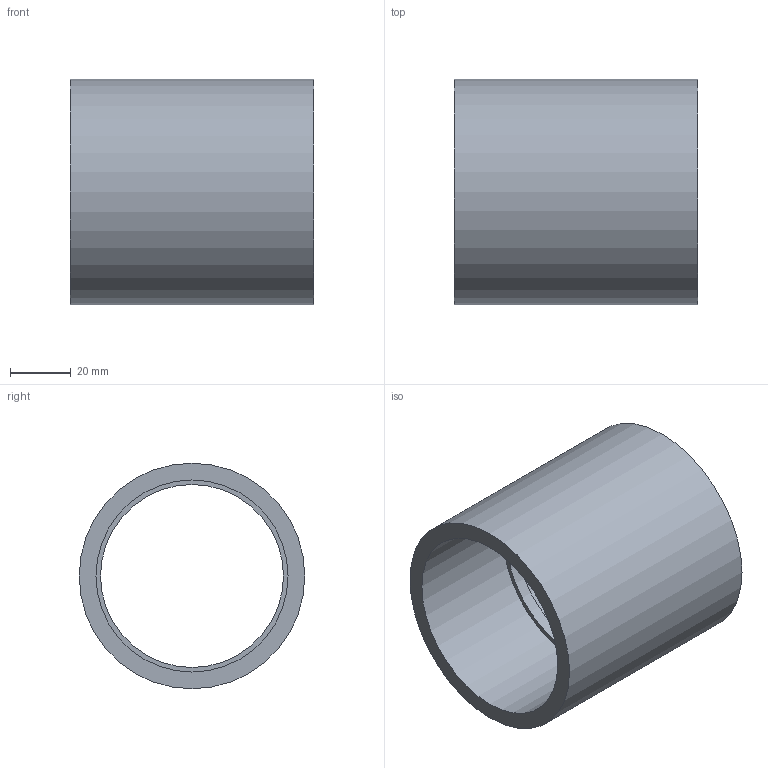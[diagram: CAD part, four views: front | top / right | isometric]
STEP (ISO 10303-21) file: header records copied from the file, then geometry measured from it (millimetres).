
FILE_DESCRIPTION(/* description */ ('PVC manicotti metrici incollaggio'),/* implementation_level */ '2;1');
FILE_NAME(/* name */ 'C:\Users\POLYPIPE\Desktop\DATASET INVENTOR\LIBRERIA EFFAST\RACCORDI 3DxWEB\RDR\3D_RDRMAD\3D_RDRMAD0630.stp',/* time_stamp */ '2018-01-19T14:38:59+01:00',/* author */ ('POLYPIPE'),/* organization */ ('Polypipe Italia s.r.l.'),/* preprocessor_version */ 'ST-DEVELOPER v16.1',/* originating_system */ 'Autodesk Inventor 2016',/* authorisation */ '');
FILE_SCHEMA (('CONFIG_CONTROL_DESIGN'));
Length unit declared in the file: millimetre
Products named in the file (1): 3D_RDRMAD
Bounding box: 80 x 74 x 74 mm (x, y, z)
Volume: 95846.9 mm3; surface area: 37341 mm2
Topology: 1 solids, 1 shells, 8 faces, 12 edges, 8 vertices
Faces by surface type: cylinder 4, plane 4
Full cylindrical faces by diameter (mm): 60 x1, 63 x2, 74 x1
Entity records: 192 total; most frequent: DIRECTION 34, CARTESIAN_POINT 25, AXIS2_PLACEMENT_3D 17, EDGE_LOOP 16, ORIENTED_EDGE 16, FACE_BOUND 8, FACE_OUTER_BOUND 8, CIRCLE 8
